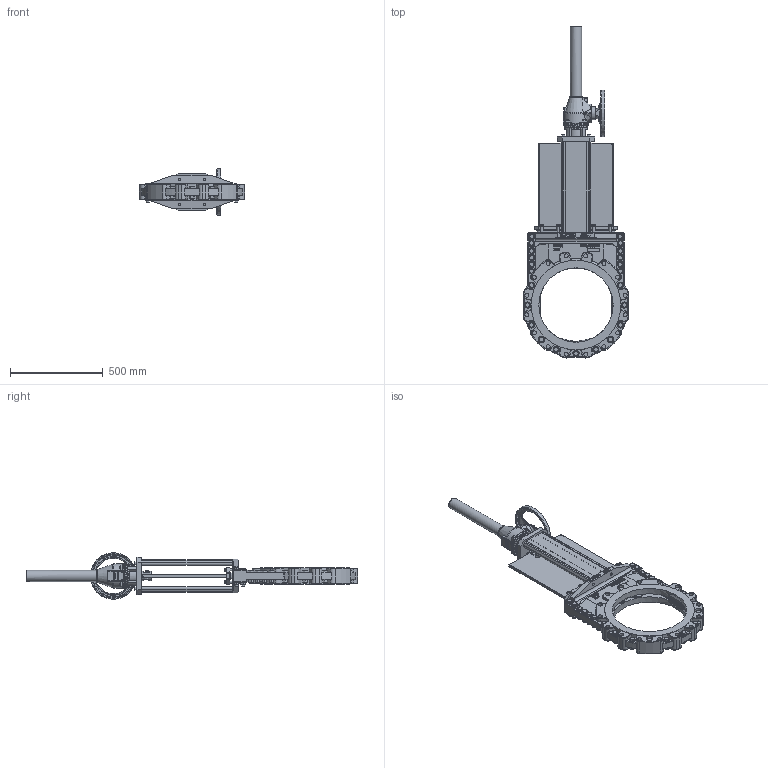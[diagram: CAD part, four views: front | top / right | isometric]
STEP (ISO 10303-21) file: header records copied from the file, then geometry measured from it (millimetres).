
FILE_DESCRIPTION(/* description */ (''),/* implementation_level */ '2;1');
FILE_NAME(/* name */ 'F:\3D Sammanställningar\WB\DN400\WB14E-DN400-ANSI150-AUMA GK 10 3.stp',/* time_stamp */ '2021-07-01T08:28:20+02:00',/* author */ ('MATZET'),/* organization */ (''),/* preprocessor_version */ 'ST-DEVELOPER v18',/* originating_system */ 'Autodesk Inventor 2020',/* authorisation */ '');
FILE_SCHEMA (('AUTOMOTIVE_DESIGN { 1 0 10303 214 3 1 1 }'));
Products named in the file (1): WB14E-DN400-ANSI150-AUMA GK 10
Bounding box: 569.6 x 1786.3 x 250 mm (x, y, z)
Volume: 24547598.9 mm3; surface area: 2978440.3 mm2
Topology: 1 solids, 1 shells, 4217 faces, 10995 edges, 7155 vertices
Faces by surface type: plane 2130, cylinder 761, bspline 731, cone 386, torus 183, sphere 26
Full cylindrical faces by diameter (mm): 2 x2, 4 x2, 4.3 x2, 6.88 x4, 7 x1, 8.376 x4, 9 x1, 10 x4, 10.106 x8, 11.5 x4, 12 x20, 13 x8, 13.835 x4, 14.63 x2, 16 x40, 16.63 x2, 17 x21, 17.5 x1, 18 x4, 18.8 x2, 20 x4, 21.971 x32, 22.49 x21, 24 x10, 25 x1, 28 x46, 33 x42, 36 x8, 48 x1, 50 x1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
Entity records: 222708 total; most frequent: CARTESIAN_POINT 121046, ORIENTED_EDGE 21894, DIRECTION 18537, EDGE_CURVE 10947, VERTEX_POINT 7153, AXIS2_PLACEMENT_3D 6538, LINE 5461, VECTOR 5461
